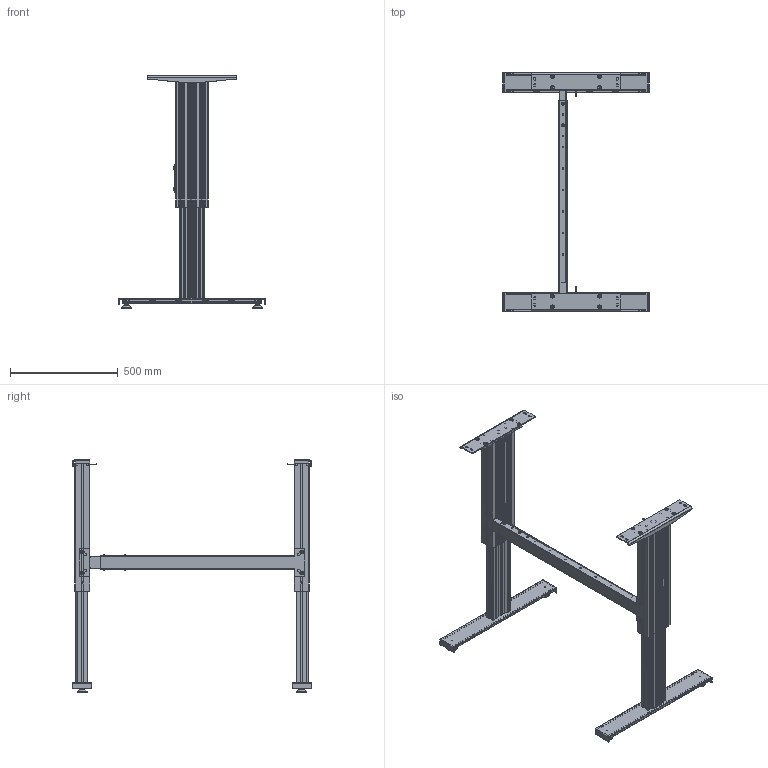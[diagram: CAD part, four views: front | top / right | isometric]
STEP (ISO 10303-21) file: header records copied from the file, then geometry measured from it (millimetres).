
FILE_DESCRIPTION(/* description */ ('Unknown'),/* implementation_level */ '2;1');
FILE_NAME(/* name */ '108.00312_01-Ausgefahren',/* time_stamp */ '2022-02-10T09:23:17+01:00',/* author */ ('Unknown'),/* organization */ ('Unknown'),/* preprocessor_version */ 'ST-DEVELOPER v18.1',/* originating_system */ 'Solid Edge',/* authorisation */ 'Unknown');
FILE_SCHEMA (('AUTOMOTIVE_DESIGN {1 0 10303 214 3 1 1}'));
Products named in the file (35): 108.00312; 306.00804_oa_0; 126.00147; 119.00312; 119.00311; 142.00166; 142.00343; 113.00002; 124.00123; 107.00027_oa_1; 115.00007_oa_2; 306.00804_oa_3; 107.00027_oa_4; 115.00007_oa_5; 127.00635; 060339~2; 060340~3; Sechskantmutter M6 DIN 934; Scheibe Ø6,4 DIN 125; Halbrundkopfschraube mit Innensechskant M8x12 ISO 7380-1; Scheibe Ø8,4 DIN 125; Nutenstein M8_montiert; Halbrundkopfschraube mit Innensechskant und Bund M6x16 ISO 7380-2; 127.00545; 127.00548; 127.00566; 127.00567; 127.00548_461_469_Kehlnaht 1_oa_6; 113.00006; 113.00006-ohne Mutter; Mutter M10; 115.00165; 127.00223; 142.00279; 142.00068
Assembly tree (76 placements, depth 4):
  108.00312
    306.00804_oa_0
      126.00147
      119.00312
      119.00311
      142.00166  x4
      142.00343  x2
      113.00002
      124.00123
      107.00027_oa_1
        115.00007_oa_2
    306.00804_oa_3
      126.00147
      119.00312
      119.00311
      142.00166  x4
      142.00343  x2
      113.00002
      124.00123
      107.00027_oa_4
        115.00007_oa_5
    127.00635
      060339~2
      060340~3
      Sechskantmutter M6 DIN 934  x4
      Scheibe Ø6,4 DIN 125  x4
      Halbrundkopfschraube mit Innensechskant M8x12 ISO 7380-1  x4
      Scheibe Ø8,4 DIN 125  x4
      Nutenstein M8_montiert  x4
      Halbrundkopfschraube mit Innensechskant und Bund M6x16 ISO 7380-2  x4
    127.00545  x2
      127.00548
        127.00566
        127.00567
        127.00548_461_469_Kehlnaht 1_oa_6
      113.00006
        113.00006-ohne Mutter
        Mutter M10
    115.00165  x2
      127.00223
      142.00279
      142.00068
Bounding box: 680 x 1110 x 1080 mm (x, y, z)
Volume: 7398710.1 mm3; surface area: 3856973.1 mm2
Topology: 102 solids, 102 shells, 6080 faces, 17067 edges, 11263 vertices
Faces by surface type: plane 3316, cylinder 2344, cone 234, torus 108, bspline 74, sphere 4
Full cylindrical faces by diameter (mm): 2.2 x2, 3.242 x4, 3.4 x2, 4 x6, 5 x10, 5.5 x8, 6 x8, 6.4 x4, 6.6 x2, 6.647 x12, 7 x16, 8 x18, 8.376 x10, 8.5 x28, 8.7 x8, 9 x8, 9.5 x4, 10 x4, 12 x4, 12.5 x2, 13.5 x2, 13.6 x4, 14 x4, 15 x4, 16.8 x4, 19 x4, 25 x14, 29 x4, 30 x4, 35 x4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
Entity records: 102406 total; most frequent: CARTESIAN_POINT 17486, ORIENTED_EDGE 15324, DIRECTION 15086, EDGE_CURVE 7662, VERTEX_POINT 5149, AXIS2_PLACEMENT_3D 5058, LINE 4970, VECTOR 4970
